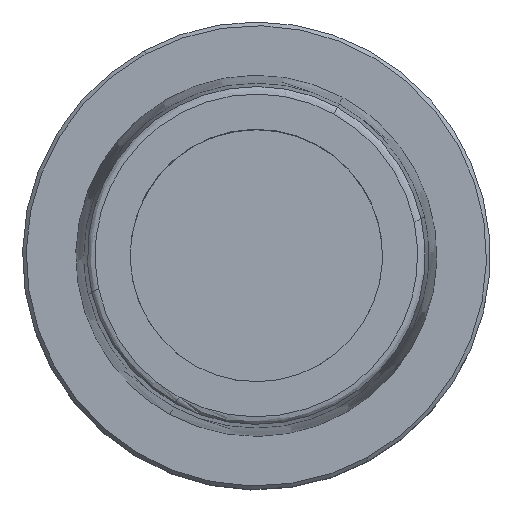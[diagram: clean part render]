
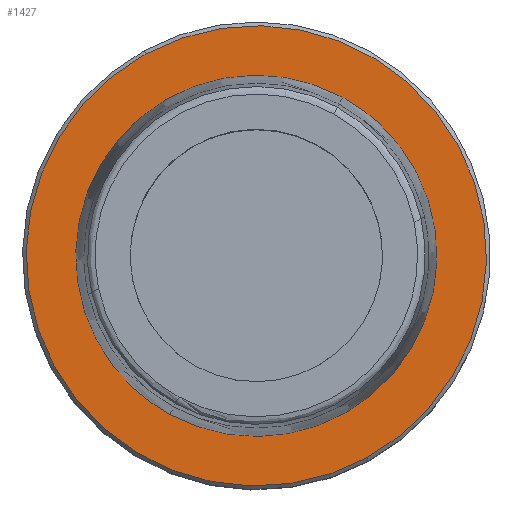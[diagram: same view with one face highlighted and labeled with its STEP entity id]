
A CAD part, top view. The second image highlights one B-rep face of the part: STEP entity #1427.
In plain terms, the highlighted planar face has unit normal (0, 0, 1).
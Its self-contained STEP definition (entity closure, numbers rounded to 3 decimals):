
#1250=AXIS2_PLACEMENT_3D('Circle Axis2P3D',#1248,#1249,$) ;
#1403=AXIS2_PLACEMENT_3D('Circle Axis2P3D',#1401,#1402,$) ;
#1417=AXIS2_PLACEMENT_3D('Plane Axis2P3D',#1414,#1415,#1416) ;
#367=CARTESIAN_POINT('Vertex',(-11.66,-21.343,0.)) ;
#371=CARTESIAN_POINT('Control Point',(-11.66,-21.343,0.)) ;
#372=CARTESIAN_POINT('Control Point',(-8.125,-23.274,0.)) ;
#373=CARTESIAN_POINT('Control Point',(-4.191,-24.474,0.)) ;
#374=CARTESIAN_POINT('Control Point',(-0.06,-24.83,0.)) ;
#375=CARTESIAN_POINT('Control Point',(8.267,-23.793,0.)) ;
#376=CARTESIAN_POINT('Control Point',(15.476,-19.471,0.)) ;
#377=CARTESIAN_POINT('Control Point',(18.613,-16.499,0.)) ;
#378=CARTESIAN_POINT('Control Point',(23.407,-9.395,0.)) ;
#379=CARTESIAN_POINT('Control Point',(24.854,-0.948,0.)) ;
#380=CARTESIAN_POINT('Control Point',(24.643,3.368,0.)) ;
#381=CARTESIAN_POINT('Control Point',(22.734,10.339,0.)) ;
#382=CARTESIAN_POINT('Control Point',(18.548,16.127,0.)) ;
#383=CARTESIAN_POINT('Control Point',(16.505,18.212,0.)) ;
#384=CARTESIAN_POINT('Control Point',(14.184,19.964,0.)) ;
#385=CARTESIAN_POINT('Control Point',(11.66,21.343,0.)) ;
#386=CARTESIAN_POINT('Vertex',(11.66,21.343,0.)) ;
#499=CARTESIAN_POINT('Control Point',(11.66,21.343,0.)) ;
#500=CARTESIAN_POINT('Control Point',(8.125,23.274,0.)) ;
#501=CARTESIAN_POINT('Control Point',(4.191,24.474,0.)) ;
#502=CARTESIAN_POINT('Control Point',(0.06,24.83,0.)) ;
#503=CARTESIAN_POINT('Control Point',(-8.267,23.793,0.)) ;
#504=CARTESIAN_POINT('Control Point',(-15.476,19.471,0.)) ;
#505=CARTESIAN_POINT('Control Point',(-18.613,16.499,0.)) ;
#506=CARTESIAN_POINT('Control Point',(-23.407,9.395,0.)) ;
#507=CARTESIAN_POINT('Control Point',(-24.854,0.948,0.)) ;
#508=CARTESIAN_POINT('Control Point',(-24.643,-3.368,0.)) ;
#509=CARTESIAN_POINT('Control Point',(-22.734,-10.339,0.)) ;
#510=CARTESIAN_POINT('Control Point',(-18.548,-16.127,0.)) ;
#511=CARTESIAN_POINT('Control Point',(-16.505,-18.212,0.)) ;
#512=CARTESIAN_POINT('Control Point',(-14.184,-19.964,0.)) ;
#513=CARTESIAN_POINT('Control Point',(-11.66,-21.343,0.)) ;
#1248=CARTESIAN_POINT('Axis2P3D Location',(0.,0.,0.)) ;
#1252=CARTESIAN_POINT('Vertex',(-14.862,27.205,0.)) ;
#1254=CARTESIAN_POINT('Vertex',(14.862,-27.205,0.)) ;
#1401=CARTESIAN_POINT('Axis2P3D Location',(0.,0.,0.)) ;
#1414=CARTESIAN_POINT('Axis2P3D Location',(0.,-24.321,0.)) ;
#1249=DIRECTION('Axis2P3D Direction',(0.,0.,-1.)) ;
#1402=DIRECTION('Axis2P3D Direction',(0.,0.,-1.)) ;
#1415=DIRECTION('Axis2P3D Direction',(0.,0.,-1.)) ;
#1416=DIRECTION('Axis2P3D XDirection',(-1.,0.,0.)) ;
#1420=ORIENTED_EDGE('',*,*,#1256,.T.) ;
#1421=ORIENTED_EDGE('',*,*,#1405,.T.) ;
#1424=ORIENTED_EDGE('',*,*,#388,.F.) ;
#1425=ORIENTED_EDGE('',*,*,#514,.F.) ;
#1426=FACE_BOUND('',#1423,.T.) ;
#1427=ADVANCED_FACE('NOCUT',(#1422,#1426),#1418,.F.) ;
#370=B_SPLINE_CURVE_WITH_KNOTS('',5,(#371,#372,#373,#374,#375,#376,#377,#378,#379,#380,#381,#382,#383,#384,#385),.UNSPECIFIED.,.F.,.U.,(6,3,3,3,6),(0.,85.222,173.854,262.485,323.349),.UNSPECIFIED.) ;
#498=B_SPLINE_CURVE_WITH_KNOTS('',5,(#499,#500,#501,#502,#503,#504,#505,#506,#507,#508,#509,#510,#511,#512,#513),.UNSPECIFIED.,.F.,.U.,(6,3,3,3,6),(323.349,408.571,497.203,585.834,646.698),.UNSPECIFIED.) ;
#1251=CIRCLE('generated circle',#1250,31.) ;
#1404=CIRCLE('generated circle',#1403,31.) ;
#388=EDGE_CURVE('',#368,#387,#370,.T.) ;
#514=EDGE_CURVE('',#387,#368,#498,.T.) ;
#1256=EDGE_CURVE('',#1253,#1255,#1251,.F.) ;
#1405=EDGE_CURVE('',#1255,#1253,#1404,.F.) ;
#1419=EDGE_LOOP('',(#1420,#1421)) ;
#1423=EDGE_LOOP('',(#1424,#1425)) ;
#1422=FACE_OUTER_BOUND('',#1419,.T.) ;
#1418=PLANE('',#1417) ;
#368=VERTEX_POINT('',#367) ;
#387=VERTEX_POINT('',#386) ;
#1253=VERTEX_POINT('',#1252) ;
#1255=VERTEX_POINT('',#1254) ;
